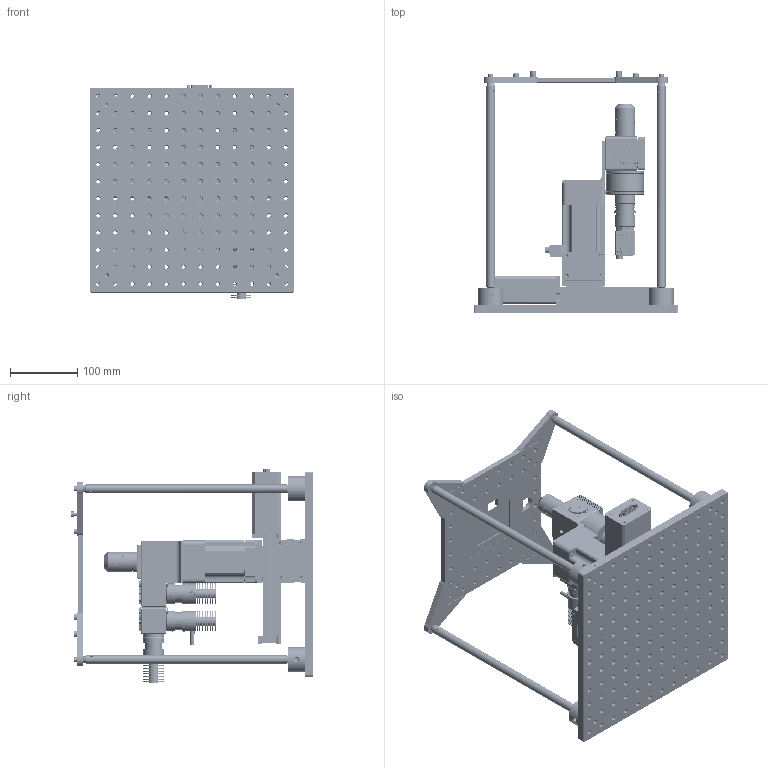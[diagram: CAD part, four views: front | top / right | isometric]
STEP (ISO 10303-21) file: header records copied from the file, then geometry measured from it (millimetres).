
FILE_DESCRIPTION (( 'STEP AP214' ), '1' );
FILE_NAME ('LevinScope_2026.STEP', '2026-03-04T16:00:36', ( '' ), ( '' ), 'SwSTEP 2.0', 'SolidWorks 2023', '' );
FILE_SCHEMA (( 'AUTOMOTIVE_DESIGN' ));
Length unit declared in the file: millimetre
Products named in the file (37): Chip assembly_RamsesV4; TTL100-A-Solidworks; M565L3-Solidworks; socket head cap screw_ai_HX-SHCS 0.164-32x0.625x0.625-N; LSQ_base^LSQ(1)_LSQ075; Optics_Ramses_VSR20x-T3A; Z_stage_block; Connector; Pillars_94033A460; Chip_holder; MB12-Solidworks; NMS17_motor^LSQ(1)_LSQ-T3A; CM1-DCH_M-Solidworks; ACL25416U-A-Solidworks; P1-Solidworks_Web Part; CM1-CC-Solidworks; Glass75x50mm; N10X-PF-Solidworks(1); M660L4-Solidworks; SM1V10-Solidworks; SM1CP2M-Solidworks_Engraved; DFM1_M-Solidworks; M470L5-Solidworks_Standard; SM1A9-Solidworks; LevinScope_2026; SM1T10-Solidworks; a2A4504-um18 Basler camera; LSQ_carriage^LSQ(1)_Standard; SM1A2-Solidworks; 8982K243_Al Angle 63mm_8982K243; LSQ(1)_LSQ075x-T3A; SM1A12-Solidworks; VSR40x-T3A; LevinscopeV2; socket head cap screw_am_B18.3.1M - 5 x 0.8 x 8 Hex SHCS -- 8NHX; SM1L05-Solidworks; pump_panel_v3
Assembly tree (66 placements, depth 4):
  LevinScope_2026
    MB12-Solidworks
    P1-Solidworks_Web Part  x4
    Pillars_94033A460  x4
    pump_panel_v3
    Connector  x4
    Optics_Ramses_VSR20x-T3A
      LSQ(1)_LSQ075x-T3A  x2
        LSQ_base^LSQ(1)_LSQ075
        LSQ_carriage^LSQ(1)_Standard
        NMS17_motor^LSQ(1)_LSQ-T3A
      LevinscopeV2
        DFM1_M-Solidworks
        SM1A12-Solidworks
        N10X-PF-Solidworks(1)
        SM1A2-Solidworks  x2
        TTL100-A-Solidworks
        a2A4504-um18 Basler camera
        SM1A9-Solidworks
        SM1V10-Solidworks
        SM1L05-Solidworks  x4
        CM1-DCH_M-Solidworks  x2
        SM1CP2M-Solidworks_Engraved  x3
        CM1-CC-Solidworks  x2
        M470L5-Solidworks_Standard
        M565L3-Solidworks
        M660L4-Solidworks
        ACL25416U-A-Solidworks
        SM1T10-Solidworks  x3
        8982K243_Al Angle 63mm_8982K243
      Z_stage_block
      VSR40x-T3A
    socket head cap screw_am_B18.3.1M - 5 x 0.8 x 8 Hex SHCS -- 8NHX  x8
    socket head cap screw_ai_HX-SHCS 0.164-32x0.625x0.625-N  x4
    Chip_holder
    Chip assembly_RamsesV4
      Glass75x50mm
Bounding box: 304.8 x 360.95 x 319.46 mm (x, y, z)
Volume: 3285858.9 mm3; surface area: 1054497.4 mm2
Topology: 232 solids, 278 shells, 17932 faces, 50612 edges, 33964 vertices
Faces by surface type: plane 7830, cylinder 4708, bspline 2963, cone 2024, torus 376, sphere 31
Entity records: 752599 total; most frequent: CARTESIAN_POINT 355390, ORIENTED_EDGE 69803, DIRECTION 52491, EDGE_CURVE 35578, VERTEX_POINT 24208, AXIS2_PLACEMENT_3D 18276, VECTOR 15939, LINE 15939
